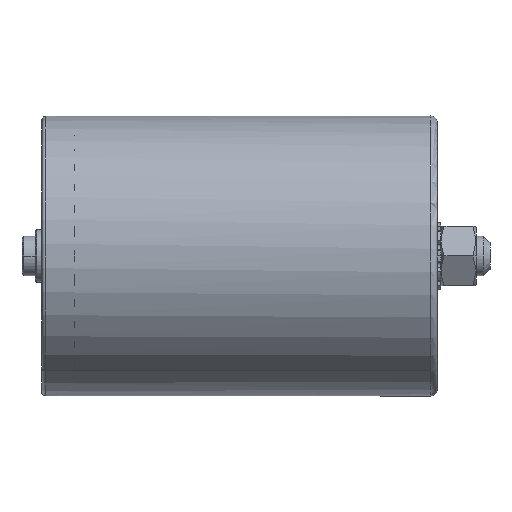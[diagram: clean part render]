
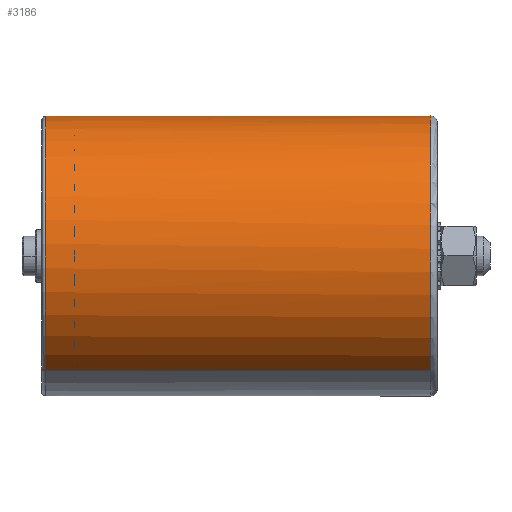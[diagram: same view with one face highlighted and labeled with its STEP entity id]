
A CAD part, left-side view. The second image highlights one B-rep face of the part: STEP entity #3186.
In plain terms, the highlighted cylindrical face has radius 42.5 mm (diameter 85 mm), a partial arc.
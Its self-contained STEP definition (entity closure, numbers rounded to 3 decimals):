
#73 = VECTOR ( 'NONE', #5016, 1000. ) ;
#283 = CYLINDRICAL_SURFACE ( 'NONE', #8060, 42.5 ) ;
#358 = DIRECTION ( 'NONE',  ( 0., 1., 0. ) ) ;
#400 = DIRECTION ( 'NONE',  ( 0., 1., 0. ) ) ;
#559 = VERTEX_POINT ( 'NONE', #7592 ) ;
#1053 = CARTESIAN_POINT ( 'NONE',  ( 18.6, -4.544, 115.414 ) ) ;
#1054 = VERTEX_POINT ( 'NONE', #7842 ) ;
#1258 = EDGE_CURVE ( 'NONE', #3035, #8380, #3475, .T. ) ;
#1315 = EDGE_CURVE ( 'NONE', #559, #1054, #2133, .T. ) ;
#1320 = CIRCLE ( 'NONE', #7761, 42.5 ) ;
#1392 = AXIS2_PLACEMENT_3D ( 'NONE', #4210, #8138, #2954 ) ;
#1524 = ORIENTED_EDGE ( 'NONE', *, *, #1258, .T. ) ;
#1654 = DIRECTION ( 'NONE',  ( 0., 1., 0. ) ) ;
#2121 = DIRECTION ( 'NONE',  ( 0., 0., -1. ) ) ;
#2133 = CIRCLE ( 'NONE', #2868, 42.5 ) ;
#2183 = DIRECTION ( 'NONE',  ( 0., 1., 0. ) ) ;
#2229 = LINE ( 'NONE', #3692, #73 ) ;
#2724 = ORIENTED_EDGE ( 'NONE', *, *, #5569, .T. ) ;
#2868 = AXIS2_PLACEMENT_3D ( 'NONE', #4266, #1654, #2993 ) ;
#2954 = DIRECTION ( 'NONE',  ( 0.574, 0., 0.819 ) ) ;
#2993 = DIRECTION ( 'NONE',  ( 0., 0., -1. ) ) ;
#3035 = VERTEX_POINT ( 'NONE', #8085 ) ;
#3186 = ADVANCED_FACE ( 'NONE', ( #3763 ), #283, .T. ) ;
#3199 = EDGE_CURVE ( 'NONE', #8296, #8380, #2229, .T. ) ;
#3437 = ORIENTED_EDGE ( 'NONE', *, *, #3199, .F. ) ;
#3475 = CIRCLE ( 'NONE', #1392, 42.5 ) ;
#3637 = LINE ( 'NONE', #1053, #5704 ) ;
#3692 = CARTESIAN_POINT ( 'NONE',  ( -30.154, -4.544, 45.786 ) ) ;
#3763 = FACE_OUTER_BOUND ( 'NONE', #4264, .T. ) ;
#3832 = CARTESIAN_POINT ( 'NONE',  ( -30.154, 4.456, 45.786 ) ) ;
#4210 = CARTESIAN_POINT ( 'NONE',  ( -5.777, 4.456, 80.6 ) ) ;
#4264 = EDGE_LOOP ( 'NONE', ( #8305, #2724, #1524, #3437, #5426 ) ) ;
#4266 = CARTESIAN_POINT ( 'NONE',  ( -5.777, -112.544, 80.6 ) ) ;
#5016 = DIRECTION ( 'NONE',  ( 0., 1., 0. ) ) ;
#5247 = EDGE_CURVE ( 'NONE', #8296, #559, #1320, .T. ) ;
#5426 = ORIENTED_EDGE ( 'NONE', *, *, #5247, .T. ) ;
#5569 = EDGE_CURVE ( 'NONE', #1054, #3035, #3637, .T. ) ;
#5704 = VECTOR ( 'NONE', #358, 1000. ) ;
#6170 = CARTESIAN_POINT ( 'NONE',  ( -5.777, -112.544, 80.6 ) ) ;
#7049 = DIRECTION ( 'NONE',  ( -0.574, 0., -0.819 ) ) ;
#7592 = CARTESIAN_POINT ( 'NONE',  ( -5.777, -112.544, 123.1 ) ) ;
#7619 = CARTESIAN_POINT ( 'NONE',  ( -5.777, -4.544, 80.6 ) ) ;
#7630 = CARTESIAN_POINT ( 'NONE',  ( -30.154, -112.544, 45.786 ) ) ;
#7761 = AXIS2_PLACEMENT_3D ( 'NONE', #6170, #2183, #2121 ) ;
#7842 = CARTESIAN_POINT ( 'NONE',  ( 18.6, -112.544, 115.414 ) ) ;
#8060 = AXIS2_PLACEMENT_3D ( 'NONE', #7619, #400, #7049 ) ;
#8085 = CARTESIAN_POINT ( 'NONE',  ( 18.6, 4.456, 115.414 ) ) ;
#8138 = DIRECTION ( 'NONE',  ( 0., -1., 0. ) ) ;
#8296 = VERTEX_POINT ( 'NONE', #7630 ) ;
#8305 = ORIENTED_EDGE ( 'NONE', *, *, #1315, .T. ) ;
#8380 = VERTEX_POINT ( 'NONE', #3832 ) ;
